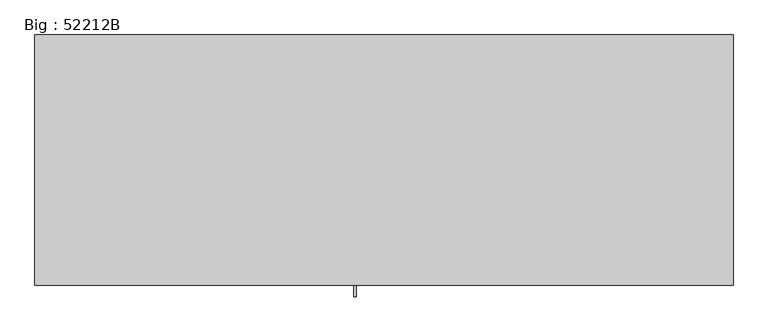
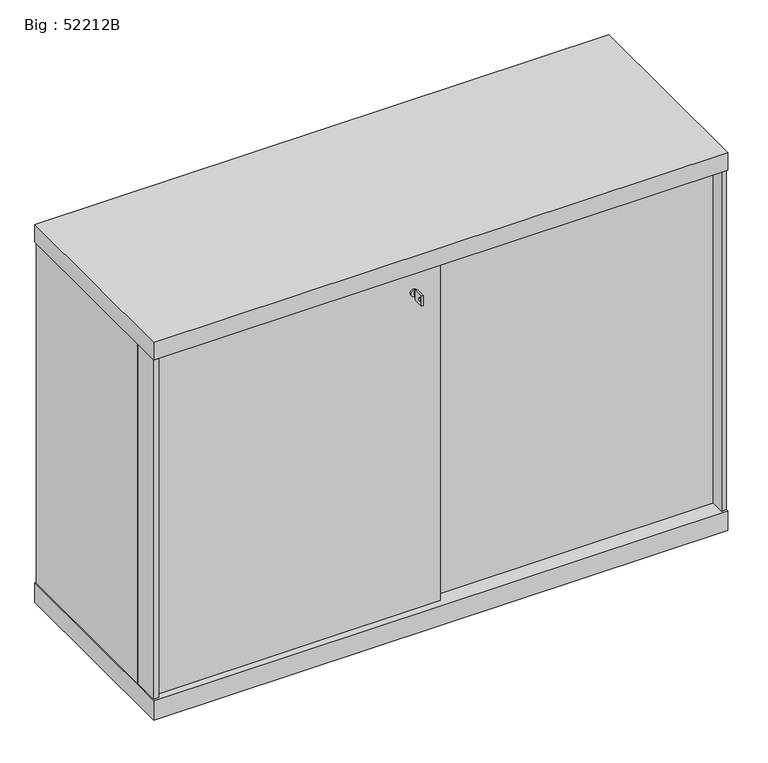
"""IFC4 building model written with IfcOpenShell, lengths in millimetres: furniture geometry, Big : 52212B."""

from ifc_helpers import new_model, si_unit, point, frame, frame_2d, origin, origin_with_axes, place, context, project, spatial, polyline, circle_curve, trimmed, segment, composite_curve, outline, extrude, source, transform, mapped, element, save


def big_52212b_7c035a08(model_context):
    return source(origin(), model_context, "Body", "SweptSolid", [
        extrude(outline(polyline([(-20.0, 741.014113), (-20.0, 763.0), (2.0, 763.0), (2.0, 741.014113), (-20.0, 741.014113)]), holes=[composite_curve([segment(trimmed(circle_curve(frame_2d((-13.75, 752.0070565)), 3.2230706), [point((-13.75, 755.2301271))], [point((-13.75, 748.7839859))], True, "CARTESIAN"), True, "CONTINUOUS"), segment(trimmed(circle_curve(frame_2d((-13.75, 752.0070565)), 3.2230706), [point((-13.75, 748.7839859))], [point((-13.75, 755.2301271))], True, "CARTESIAN"), True, "CONTINUOUS")], self_intersect=False)]), frame((-52.0, 0.0, 0.0), z_axis=(1.0, 0.0, 0.0), x_axis=(0.0, 1.0, 0.0)), (0.0, 0.0, 1.0), 4.0416064),
        extrude(outline(polyline([(-48.9583936, 2.0), (-51.0, 2.0), (-51.0, 8.0), (-48.9583936, 8.0), (-48.9583936, 2.0)])), frame((0.0, 0.0, 748.014113), z_axis=(0.0, 0.0, 1.0), x_axis=(1.0, 0.0, 0.0)), (0.0, 0.0, 1.0), 7.985887),
        extrude(outline(composite_curve([segment(trimmed(circle_curve(frame_2d((752.0, -50.0)), 7.0), [point((752.0, -57.0))], [point((752.0, -43.0))], False, "CARTESIAN"), True, "CONTINUOUS"), segment(trimmed(circle_curve(frame_2d((752.0, -50.0)), 7.0), [point((752.0, -43.0))], [point((752.0, -57.0))], False, "CARTESIAN"), True, "CONTINUOUS")], self_intersect=False)), frame((0.0, 8.0, 0.0), z_axis=(0.0, 1.0, 0.0), x_axis=(0.0, 0.0, 1.0)), (0.0, 0.0, 1.0), 4.0),
        extrude(outline(polyline([(598.5, 2.0), (588.5, 2.0), (588.5, 32.0), (-6.5, 32.0), (-6.5, 48.0), (588.5, 48.0), (588.5, 58.0), (598.5, 58.0), (598.5, 2.0)])), frame((0.0, 0.0, 50.0), z_axis=(0.0, 0.0, 1.0), x_axis=(1.0, 0.0, 0.0)), (0.0, 0.0, 1.0), 750.0),
        extrude(outline(polyline([(-598.5, 2.0), (-598.5, 58.0), (-588.5, 58.0), (-588.5, 28.0), (6.5, 28.0), (6.5, 12.0), (-588.5, 12.0), (-588.5, 2.0), (-598.5, 2.0)])), frame((0.0, 0.0, 50.0), z_axis=(0.0, 0.0, 1.0), x_axis=(1.0, 0.0, 0.0)), (0.0, 0.0, 1.0), 750.0),
        extrude(outline(polyline([(600.0, 0.0), (-600.0, 0.0), (-600.0, 430.0), (600.0, 430.0), (600.0, 0.0)])), frame((0.0, 0.0, 5.0), z_axis=(0.0, 0.0, 1.0), x_axis=(1.0, 0.0, 0.0)), (0.0, 0.0, 1.0), 43.0),
        extrude(outline(polyline([(580.5000002, 428.0), (598.5, 428.0), (598.5, 62.0), (580.5000002, 62.0), (580.5000002, 428.0)])), frame((0.0, 0.0, 48.0), z_axis=(0.0, 0.0, 1.0), x_axis=(1.0, 0.0, 0.0)), (0.0, 0.0, 1.0), 754.0),
        extrude(outline(polyline([(-580.5000002, 408.4999997), (-580.5000002, 420.9999997), (580.5000002, 420.9999997), (580.5000002, 408.4999997), (-580.5000002, 408.4999997)])), frame((0.0, 0.0, 48.0), z_axis=(0.0, 0.0, 1.0), x_axis=(1.0, 0.0, 0.0)), (0.0, 0.0, 1.0), 754.0),
        extrude(outline(polyline([(-580.5000002, 428.0), (-580.5000002, 62.0), (-598.5, 62.0), (-598.5, 428.0), (-580.5000002, 428.0)])), frame((0.0, 0.0, 48.0), z_axis=(0.0, 0.0, 1.0), x_axis=(1.0, 0.0, 0.0)), (0.0, 0.0, 1.0), 754.0),
        extrude(outline(polyline([(600.0, 0.0), (-600.0, 0.0), (-600.0, 430.0), (600.0, 430.0), (600.0, 0.0)])), frame((0.0, 0.0, 802.0), z_axis=(0.0, 0.0, 1.0), x_axis=(1.0, 0.0, 0.0)), (0.0, 0.0, 1.0), 38.0),
        extrude(outline(composite_curve([segment(trimmed(circle_curve(frame_2d((-560.5000002, 336.0000021)), 20.0), [point((-580.5000002, 336.0000021))], [point((-540.5000002, 336.0000021))], False, "CARTESIAN"), True, "CONTINUOUS"), segment(trimmed(circle_curve(frame_2d((-560.5000002, 336.0000021)), 20.0), [point((-540.5000002, 336.0000021))], [point((-580.5000002, 336.0000021))], False, "CARTESIAN"), True, "CONTINUOUS")], self_intersect=False)), origin_with_axes(), (0.0, 0.0, 1.0), 5.0),
        extrude(outline(composite_curve([segment(trimmed(circle_curve(frame_2d((-560.5000002, 98.9999918)), 20.0), [point((-580.5000002, 98.9999918))], [point((-540.5000002, 98.9999918))], False, "CARTESIAN"), True, "CONTINUOUS"), segment(trimmed(circle_curve(frame_2d((-560.5000002, 98.9999918)), 20.0), [point((-540.5000002, 98.9999918))], [point((-580.5000002, 98.9999918))], False, "CARTESIAN"), True, "CONTINUOUS")], self_intersect=False)), origin_with_axes(), (0.0, 0.0, 1.0), 5.0),
        extrude(outline(composite_curve([segment(trimmed(circle_curve(frame_2d((560.5000002, 336.0000021)), 20.0), [point((540.5000002, 336.0000021))], [point((580.5000002, 336.0000021))], False, "CARTESIAN"), True, "CONTINUOUS"), segment(trimmed(circle_curve(frame_2d((560.5000002, 336.0000021)), 20.0), [point((580.5000002, 336.0000021))], [point((540.5000002, 336.0000021))], False, "CARTESIAN"), True, "CONTINUOUS")], self_intersect=False)), origin_with_axes(), (0.0, 0.0, 1.0), 5.0),
        extrude(outline(composite_curve([segment(trimmed(circle_curve(frame_2d((560.5000002, 98.9999918)), 20.0), [point((540.5000002, 98.9999918))], [point((580.5000002, 98.9999918))], False, "CARTESIAN"), True, "CONTINUOUS"), segment(trimmed(circle_curve(frame_2d((560.5000002, 98.9999918)), 20.0), [point((580.5000002, 98.9999918))], [point((540.5000002, 98.9999918))], False, "CARTESIAN"), True, "CONTINUOUS")], self_intersect=False)), origin_with_axes(), (0.0, 0.0, 1.0), 5.0),
    ])


if __name__ == "__main__":
    model = new_model("IFC4")
    model_context = context("Model", 3, world=origin())
    ifc_project = project(units=[si_unit("LENGTHUNIT", "METRE", prefix="MILLI")], contexts=[model_context])
    site = spatial("IfcSite", under=ifc_project)
    building = spatial("IfcBuilding", under=site)
    placement = place(None, origin())
    big_52212b_shape = big_52212b_7c035a08(model_context)
    element("IfcFurniture", 1, ObjectType="Big : 52212B", at=placement, inside=building, context=model_context, shape_type="MappedRepresentation", body=[
        mapped(big_52212b_shape, transform((0.0, 0.0, 0.0), x_axis=(1.0, 0.0, 0.0), y_axis=(0.0, 1.0, 0.0), z_axis=(0.0, 0.0, 1.0))),
    ])
    save(model, "model.ifc")
